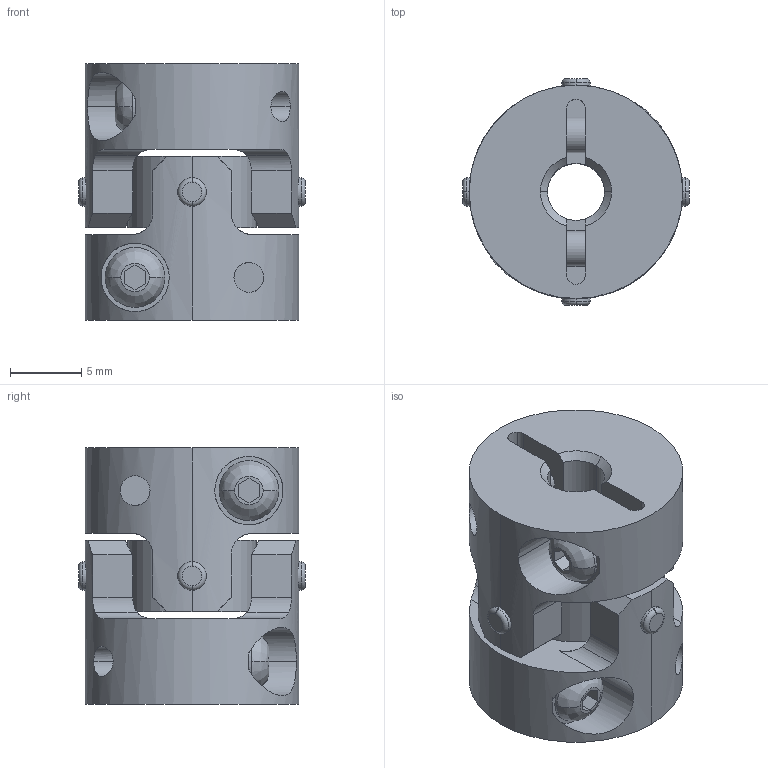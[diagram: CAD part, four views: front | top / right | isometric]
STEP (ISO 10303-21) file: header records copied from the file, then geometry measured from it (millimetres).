
FILE_DESCRIPTION((''),'2;1');
FILE_NAME('UA-15C-4×4.stp','2013-05-16T08:34:09',(''),(''),'AutoCAD STEP 2000i','AutoCAD 2000i',', , ');
FILE_SCHEMA(('CONFIG_CONTROL_DESIGN'));
Length unit declared in the file: millimetre
Products named in the file (6): UA-15C-3×3; 忣兜1; UA-1502-D03-1; BTN-M2.5; UA-1502-D03; UA15-SEN
Assembly tree (6 placements, depth 3):
  UA-15C-3×3
    忣兜1
    UA-1502-D03-1
      BTN-M2.5
    UA-1502-D03
      BTN-M2.5
    UA15-SEN
Bounding box: 15.94 x 15.94 x 18 mm (x, y, z)
Volume: 2310.2 mm3; surface area: 2369.9 mm2
Topology: 1 solids, 1 shells, 206 faces, 550 edges, 360 vertices
Faces by surface type: cylinder 96, plane 78, cone 16, bspline 8, torus 8
Entity records: 7955 total; most frequent: CARTESIAN_POINT 2659, ORIENTED_EDGE 1100, DIRECTION 1064, EDGE_CURVE 550, AXIS2_PLACEMENT_3D 409, VERTEX_POINT 360, VECTOR 246, LINE 246
